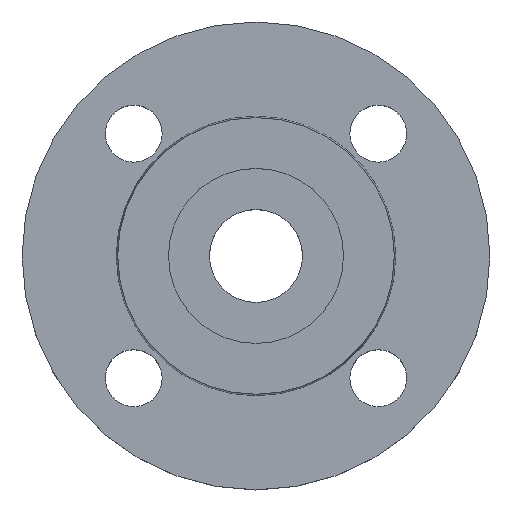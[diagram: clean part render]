
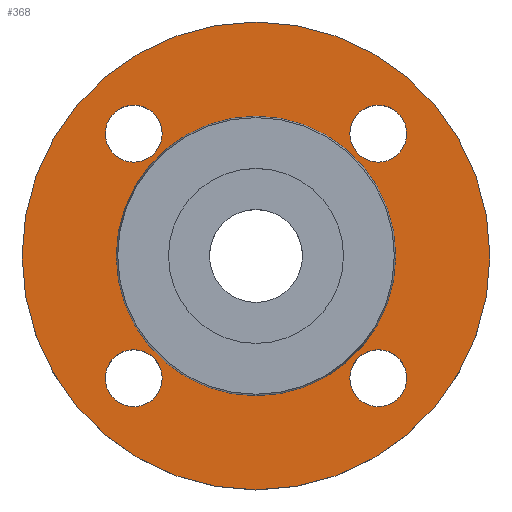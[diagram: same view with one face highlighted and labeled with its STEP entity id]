
A CAD part, top view. The second image highlights one B-rep face of the part: STEP entity #368.
In plain terms, the highlighted planar face has unit normal (0, 0, 1).
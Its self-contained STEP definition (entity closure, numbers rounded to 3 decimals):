
#2 = AXIS2_PLACEMENT_3D ( 'NONE', #71, #70, #69 ) ;
#23 = DIRECTION ( 'NONE',  ( 1., 0., 0. ) ) ;
#24 = DIRECTION ( 'NONE',  ( 0., 0., -1. ) ) ;
#26 = CARTESIAN_POINT ( 'NONE',  ( 30.052, -30.052, -2. ) ) ;
#28 = DIRECTION ( 'NONE',  ( 1., 0., 0. ) ) ;
#29 = DIRECTION ( 'NONE',  ( 0., 0., -1. ) ) ;
#30 = CARTESIAN_POINT ( 'NONE',  ( 30.052, 30.052, -2. ) ) ;
#57 = DIRECTION ( 'NONE',  ( -1., 0., 0. ) ) ;
#59 = DIRECTION ( 'NONE',  ( 0., 0., -1. ) ) ;
#60 = CARTESIAN_POINT ( 'NONE',  ( 0., 0., -2. ) ) ;
#62 = CIRCLE ( 'NONE', #248, 57.5 ) ;
#69 = DIRECTION ( 'NONE',  ( -1., 0., 0. ) ) ;
#70 = DIRECTION ( 'NONE',  ( 0., 0., -1. ) ) ;
#71 = CARTESIAN_POINT ( 'NONE',  ( 0., 0., -2. ) ) ;
#73 = CARTESIAN_POINT ( 'NONE',  ( 57.5, 0., -2. ) ) ;
#82 = EDGE_CURVE ( 'NONE', #674, #520, #642, .T. ) ;
#84 = CARTESIAN_POINT ( 'NONE',  ( 30.052, -30.052, -2. ) ) ;
#86 = CARTESIAN_POINT ( 'NONE',  ( -57.5, 0., -2. ) ) ;
#90 = CARTESIAN_POINT ( 'NONE',  ( -37.052, 30.052, -2. ) ) ;
#92 = CARTESIAN_POINT ( 'NONE',  ( -23.052, -30.052, -2. ) ) ;
#93 = AXIS2_PLACEMENT_3D ( 'NONE', #26, #24, #23 ) ;
#94 = CARTESIAN_POINT ( 'NONE',  ( -23.052, 30.052, -2. ) ) ;
#98 = EDGE_CURVE ( 'NONE', #677, #672, #252, .T. ) ;
#118 = CARTESIAN_POINT ( 'NONE',  ( 23.052, 30.052, -2. ) ) ;
#120 = DIRECTION ( 'NONE',  ( 0., 0., -1. ) ) ;
#150 = DIRECTION ( 'NONE',  ( 1., 0., 0. ) ) ;
#151 = CIRCLE ( 'NONE', #159, 7. ) ;
#155 = FACE_BOUND ( 'NONE', #681, .T. ) ;
#157 = FACE_BOUND ( 'NONE', #687, .T. ) ;
#159 = AXIS2_PLACEMENT_3D ( 'NONE', #84, #570, #150 ) ;
#160 = CARTESIAN_POINT ( 'NONE',  ( 23.052, -30.052, -2. ) ) ;
#161 = FACE_BOUND ( 'NONE', #655, .T. ) ;
#167 = FACE_BOUND ( 'NONE', #552, .T. ) ;
#170 = FACE_BOUND ( 'NONE', #518, .T. ) ;
#172 = FACE_OUTER_BOUND ( 'NONE', #507, .T. ) ;
#173 = PLANE ( 'NONE',  #376 ) ;
#175 = CARTESIAN_POINT ( 'NONE',  ( 34.353, 0., -2. ) ) ;
#176 = DIRECTION ( 'NONE',  ( 0., 0., 1. ) ) ;
#177 = CARTESIAN_POINT ( 'NONE',  ( 37.052, -30.052, -2. ) ) ;
#178 = AXIS2_PLACEMENT_3D ( 'NONE', #802, #120, #249 ) ;
#179 = DIRECTION ( 'NONE',  ( 1., 0., 0. ) ) ;
#191 = CIRCLE ( 'NONE', #415, 7. ) ;
#194 = CARTESIAN_POINT ( 'NONE',  ( -30.052, 30.052, -2. ) ) ;
#197 = DIRECTION ( 'NONE',  ( 0., 0., -1. ) ) ;
#199 = DIRECTION ( 'NONE',  ( 1., 0., 0. ) ) ;
#204 = CARTESIAN_POINT ( 'NONE',  ( -37.052, -30.052, -2. ) ) ;
#248 = AXIS2_PLACEMENT_3D ( 'NONE', #60, #59, #57 ) ;
#249 = DIRECTION ( 'NONE',  ( 1., 0., 0. ) ) ;
#252 = CIRCLE ( 'NONE', #794, 7. ) ;
#263 = AXIS2_PLACEMENT_3D ( 'NONE', #711, #712, #714 ) ;
#266 = CARTESIAN_POINT ( 'NONE',  ( 0., 0., -2. ) ) ;
#267 = DIRECTION ( 'NONE',  ( 0., 0., -1. ) ) ;
#276 = EDGE_CURVE ( 'NONE', #476, #619, #459, .T. ) ;
#316 = CARTESIAN_POINT ( 'NONE',  ( 37.052, 30.052, -2. ) ) ;
#317 = CIRCLE ( 'NONE', #409, 57.5 ) ;
#327 = DIRECTION ( 'NONE',  ( 1., 0., 0. ) ) ;
#348 = CIRCLE ( 'NONE', #2, 34.353 ) ;
#354 = CIRCLE ( 'NONE', #373, 7. ) ;
#358 = CARTESIAN_POINT ( 'NONE',  ( -30.052, -30.052, -2. ) ) ;
#360 = AXIS2_PLACEMENT_3D ( 'NONE', #358, #364, #327 ) ;
#364 = DIRECTION ( 'NONE',  ( 0., 0., -1. ) ) ;
#368 = ADVANCED_FACE ( 'NONE', ( #155, #157, #161, #167, #170, #172 ), #173, .T. ) ;
#373 = AXIS2_PLACEMENT_3D ( 'NONE', #30, #29, #28 ) ;
#376 = AXIS2_PLACEMENT_3D ( 'NONE', #175, #176, #179 ) ;
#383 = CIRCLE ( 'NONE', #360, 7. ) ;
#384 = EDGE_CURVE ( 'NONE', #672, #677, #191, .T. ) ;
#386 = CIRCLE ( 'NONE', #448, 34.353 ) ;
#409 = AXIS2_PLACEMENT_3D ( 'NONE', #266, #267, #686 ) ;
#415 = AXIS2_PLACEMENT_3D ( 'NONE', #194, #197, #199 ) ;
#421 = CARTESIAN_POINT ( 'NONE',  ( 34.353, 0., -2. ) ) ;
#426 = EDGE_CURVE ( 'NONE', #694, #688, #317, .T. ) ;
#431 = DIRECTION ( 'NONE',  ( 0., 0., -1. ) ) ;
#433 = CARTESIAN_POINT ( 'NONE',  ( 0., 0., -2. ) ) ;
#435 = CARTESIAN_POINT ( 'NONE',  ( -34.353, 0., -2. ) ) ;
#448 = AXIS2_PLACEMENT_3D ( 'NONE', #433, #431, #450 ) ;
#450 = DIRECTION ( 'NONE',  ( -1., 0., 0. ) ) ;
#459 = CIRCLE ( 'NONE', #178, 7. ) ;
#460 = EDGE_CURVE ( 'NONE', #486, #586, #386, .T. ) ;
#462 = EDGE_CURVE ( 'NONE', #520, #674, #383, .T. ) ;
#476 = VERTEX_POINT ( 'NONE', #316 ) ;
#486 = VERTEX_POINT ( 'NONE', #435 ) ;
#507 = EDGE_LOOP ( 'NONE', ( #599, #600 ) ) ;
#518 = EDGE_LOOP ( 'NONE', ( #597, #598 ) ) ;
#520 = VERTEX_POINT ( 'NONE', #204 ) ;
#546 = VERTEX_POINT ( 'NONE', #177 ) ;
#552 = EDGE_LOOP ( 'NONE', ( #595, #596 ) ) ;
#566 = VERTEX_POINT ( 'NONE', #160 ) ;
#570 = DIRECTION ( 'NONE',  ( 0., 0., -1. ) ) ;
#583 = EDGE_CURVE ( 'NONE', #546, #566, #151, .T. ) ;
#585 = ORIENTED_EDGE ( 'NONE', *, *, #583, .T. ) ;
#586 = VERTEX_POINT ( 'NONE', #421 ) ;
#590 = ORIENTED_EDGE ( 'NONE', *, *, #767, .T. ) ;
#591 = ORIENTED_EDGE ( 'NONE', *, *, #82, .T. ) ;
#592 = ORIENTED_EDGE ( 'NONE', *, *, #462, .T. ) ;
#593 = ORIENTED_EDGE ( 'NONE', *, *, #384, .T. ) ;
#594 = ORIENTED_EDGE ( 'NONE', *, *, #98, .T. ) ;
#595 = ORIENTED_EDGE ( 'NONE', *, *, #276, .T. ) ;
#596 = ORIENTED_EDGE ( 'NONE', *, *, #764, .T. ) ;
#597 = ORIENTED_EDGE ( 'NONE', *, *, #460, .T. ) ;
#598 = ORIENTED_EDGE ( 'NONE', *, *, #698, .T. ) ;
#599 = ORIENTED_EDGE ( 'NONE', *, *, #426, .F. ) ;
#600 = ORIENTED_EDGE ( 'NONE', *, *, #745, .F. ) ;
#619 = VERTEX_POINT ( 'NONE', #118 ) ;
#642 = CIRCLE ( 'NONE', #263, 7. ) ;
#645 = CIRCLE ( 'NONE', #93, 7. ) ;
#655 = EDGE_LOOP ( 'NONE', ( #593, #594 ) ) ;
#672 = VERTEX_POINT ( 'NONE', #94 ) ;
#674 = VERTEX_POINT ( 'NONE', #92 ) ;
#677 = VERTEX_POINT ( 'NONE', #90 ) ;
#681 = EDGE_LOOP ( 'NONE', ( #585, #590 ) ) ;
#686 = DIRECTION ( 'NONE',  ( -1., 0., 0. ) ) ;
#687 = EDGE_LOOP ( 'NONE', ( #591, #592 ) ) ;
#688 = VERTEX_POINT ( 'NONE', #86 ) ;
#694 = VERTEX_POINT ( 'NONE', #73 ) ;
#698 = EDGE_CURVE ( 'NONE', #586, #486, #348, .T. ) ;
#711 = CARTESIAN_POINT ( 'NONE',  ( -30.052, -30.052, -2. ) ) ;
#712 = DIRECTION ( 'NONE',  ( 0., 0., -1. ) ) ;
#714 = DIRECTION ( 'NONE',  ( 1., 0., 0. ) ) ;
#715 = CARTESIAN_POINT ( 'NONE',  ( -30.052, 30.052, -2. ) ) ;
#716 = DIRECTION ( 'NONE',  ( 0., 0., -1. ) ) ;
#717 = DIRECTION ( 'NONE',  ( 1., 0., 0. ) ) ;
#745 = EDGE_CURVE ( 'NONE', #688, #694, #62, .T. ) ;
#764 = EDGE_CURVE ( 'NONE', #619, #476, #354, .T. ) ;
#767 = EDGE_CURVE ( 'NONE', #566, #546, #645, .T. ) ;
#794 = AXIS2_PLACEMENT_3D ( 'NONE', #715, #716, #717 ) ;
#802 = CARTESIAN_POINT ( 'NONE',  ( 30.052, 30.052, -2. ) ) ;
